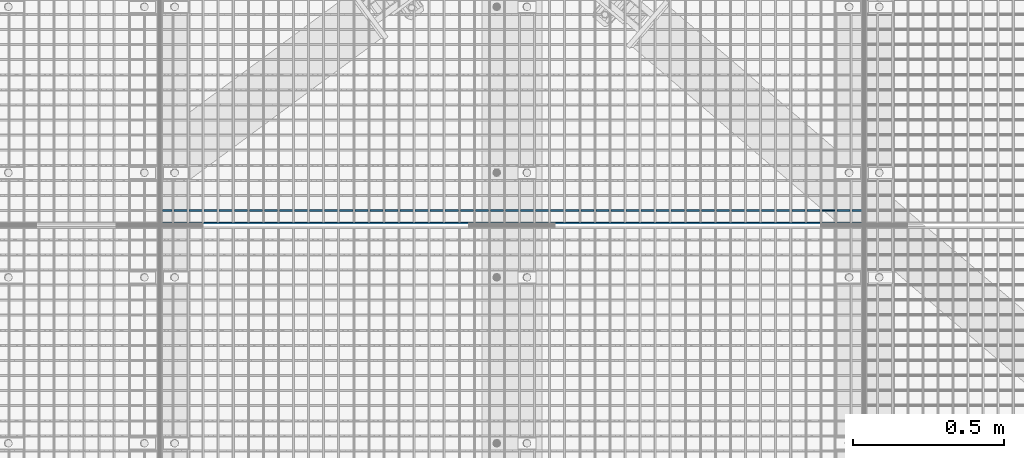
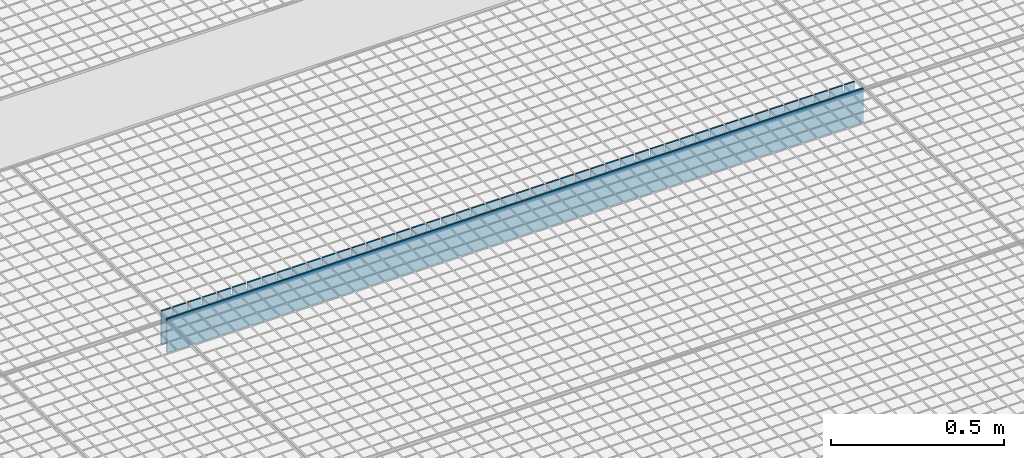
# One storey, part 213 of 1530: 2 beams.
"""IFC2X3 building model written with IfcOpenShell, lengths in millimetres."""

from ifc_helpers import new_model, si_unit, frame, origin_with_axes, place, context, subcontext, project, spatial, faceted_brep, material, type_object, element, save


model = new_model("IFC2X3")

# Units and contexts
model_context = context("Model", 3, precision=1e-05, world=origin_with_axes())
body_context = subcontext(model_context, "Body", "Model", "MODEL_VIEW")
ifc_project = project(units=[si_unit("LENGTHUNIT", "METRE", prefix="MILLI"), si_unit("AREAUNIT", "SQUARE_METRE"), si_unit("VOLUMEUNIT", "CUBIC_METRE"), si_unit("MASSUNIT", "GRAM", prefix="KILO"), si_unit("TIMEUNIT", "SECOND"), si_unit("PLANEANGLEUNIT", "RADIAN"), si_unit("SOLIDANGLEUNIT", "STERADIAN"), si_unit("THERMODYNAMICTEMPERATUREUNIT", "DEGREE_CELSIUS"), si_unit("LUMINOUSINTENSITYUNIT", "LUMEN")], contexts=[model_context])

# Site, building, storey
site_placement = place(None, origin_with_axes())
site = spatial("IfcSite", under=ifc_project, at=site_placement, Name="Brattvåg", CompositionType="ELEMENT")
building_placement = place(site_placement, origin_with_axes())
building = spatial("IfcBuilding", under=site, at=building_placement, Name="Undefined", CompositionType="ELEMENT")
storey_placement = place(building_placement, origin_with_axes())
storey = spatial("IfcBuildingStorey", under=building, at=storey_placement, Name="Undefined", CompositionType="ELEMENT", Elevation=0.0)

# Beams
ifc_material = material(Name="STEEL/S355J2")
beam_type = type_object("IfcBeamType", Name="120*5", PredefinedType="NOTDEFINED")
beam_1_placement = place(storey_placement, frame((5234.01317977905, 1996.99487304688, -59.9998626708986), z_axis=(0.0, 0.0, 1.0), x_axis=(-1.0, 1.99999855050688e-09, 0.0)))
element("IfcBeam", 1, at=beam_1_placement, inside=storey, type_object=beam_type, material=ifc_material, Name="GRATING", context=body_context, shape_type="Brep", body=[
    faceted_brep([(83.5790367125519, -2.50000000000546, 60.0000722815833), (83.5790367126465, -2.50000000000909, 35.0001373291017), (83.5790367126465, 2.50022888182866, 35.0001373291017), (83.5790367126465, 2.5, 60.0), (88.5790367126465, -2.50000000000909, 35.0001373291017), (88.5790367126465, 2.50022888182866, 35.0001373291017), (88.5790367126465, -2.50000000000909, 60.0001373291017), (88.5790367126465, 2.5, 60.0), (38.6284370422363, -2.50000000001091, 60.0001373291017), (38.6284370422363, 2.5, 60.0), (38.6284370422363, 2.49999999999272, 35.0001373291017), (38.6284370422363, -2.50000000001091, 35.0001373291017), (33.6284370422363, 2.49999999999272, 35.0001373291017), (33.6284370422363, -2.50000000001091, 35.0001373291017), (33.6284370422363, -2.5, 60.0), (33.6284370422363, 2.5, 60.0), (0.0, 2.5, 60.0), (0.0, -2.5, 60.0), (0.0, -2.5, -60.0), (0.0, 2.5, -60.0), (2319.99865722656, 2.5, -60.0), (2319.99865722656, -2.5, -60.0), (2319.99865722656, -2.5, 60.0), (2319.99865722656, 2.5, 60.0), (2286.37871932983, 2.5, 60.0), (2286.37871932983, -2.50000000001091, 60.0001373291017), (2286.37871932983, 2.49999999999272, 35.0001373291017), (2286.37871932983, -2.50000000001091, 35.0001373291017), (2281.37871932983, 2.49999999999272, 35.0001373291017), (2281.37871932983, -2.50000000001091, 35.0001373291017), (2281.37871932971, -2.50000000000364, 60.0000634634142), (2281.37871932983, 2.5, 60.0), (2236.42859649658, 2.5, 60.0), (2236.42859649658, -2.50000000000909, 60.0001373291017), (2236.42859649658, 2.50022888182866, 35.0001373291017), (2236.42859649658, -2.50000000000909, 35.0001373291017), (2231.42859649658, 2.50022888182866, 35.0001373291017), (2231.42859649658, -2.50000000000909, 35.0001373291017), (2231.42859649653, -2.50000000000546, 60.0000910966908), (2231.42859649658, 2.5, 60.0), (2186.47847366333, 2.5, 60.0), (2186.47847366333, -2.50000000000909, 60.0001373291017), (2186.47847366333, 2.50022888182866, 35.0001373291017), (2186.47847366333, -2.50000000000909, 35.0001373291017), (2181.47847366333, 2.50022888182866, 35.0001373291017), (2181.47847366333, -2.50000000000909, 35.0001373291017), (2181.47847366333, -2.5, 60.0), (2181.47847366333, 2.5, 60.0), (2136.52882766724, 2.5, 60.0), (2136.52882766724, -2.50000000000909, 60.0001373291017), (2136.52882766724, 2.50022888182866, 35.0001373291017), (2136.52882766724, -2.50000000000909, 35.0001373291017), (2131.52882766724, 2.50022888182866, 35.0001373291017), (2131.52882766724, -2.50000000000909, 35.0001373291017), (2131.52882766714, -2.50000000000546, 60.0000722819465), (2131.52882766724, 2.5, 60.0), (2086.57870483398, 2.5, 60.0), (2086.57870483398, -2.50000000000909, 60.0001373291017), (2086.57870483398, 2.50022888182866, 35.0001373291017), (2086.57870483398, -2.50000000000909, 35.0001373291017), (2081.57870483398, 2.50022888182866, 35.0001373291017), (2081.57870483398, -2.50000000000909, 35.0001373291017), (2081.57870483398, -2.5, 60.0), (2081.57870483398, 2.5, 60.0), (2036.62858200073, 2.5, 60.0), (2036.62858200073, -2.50000000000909, 60.0001373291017), (2036.62858200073, 2.50022888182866, 35.0001373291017), (2036.62858200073, -2.50000000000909, 35.0001373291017), (2031.62858200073, 2.50022888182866, 35.0001373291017), (2031.62858200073, -2.50000000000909, 35.0001373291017), (2031.62858200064, -2.50000000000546, 60.0000722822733), (2031.62858200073, 2.5, 60.0), (1986.67845916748, 2.5, 60.0), (1986.67845916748, -2.50000000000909, 60.0001373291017), (1986.67845916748, 2.50022888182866, 35.0001373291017), (1986.67845916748, -2.50000000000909, 35.0001373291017), (1981.67845916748, 2.50022888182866, 35.0001373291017), (1981.67845916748, -2.50000000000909, 35.0001373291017), (1981.67845916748, -2.5, 60.0), (1981.67845916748, 2.5, 60.0), (1936.72881317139, 2.5, 60.0), (1936.72881317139, -2.50000000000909, 60.0001373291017), (1936.72881317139, 2.50022888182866, 35.0001373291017), (1936.72881317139, -2.50000000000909, 35.0001373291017), (1931.72881317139, 2.50022888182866, 35.0001373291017), (1931.72881317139, -2.50000000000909, 35.0001373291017), (1931.72881317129, -2.50000000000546, 60.0000722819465), (1931.72881317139, 2.5, 60.0), (1886.77869033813, 2.5, 60.0), (1886.77869033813, -2.50000000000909, 60.0001373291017), (1886.77869033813, 2.50022888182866, 35.0001373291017), (1886.77869033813, -2.50000000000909, 35.0001373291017), (1881.77869033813, 2.50022888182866, 35.0001373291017), (1881.77869033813, -2.50000000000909, 35.0001373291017), (1881.77869033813, -2.5, 60.0), (1881.77869033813, 2.5, 60.0), (1836.82856750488, 2.5, 60.0), (1836.82856750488, -2.50000000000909, 60.0001373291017), (1836.82856750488, 2.50022888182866, 35.0001373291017), (1836.82856750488, -2.50000000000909, 35.0001373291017), (1831.82856750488, 2.50022888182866, 35.0001373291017), (1831.82856750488, -2.50000000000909, 35.0001373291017), (1831.82856750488, -2.5, 60.0), (1831.82856750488, 2.5, 60.0), (1786.87892150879, 2.5, 60.0), (1786.87892150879, -2.50000000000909, 60.0001373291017), (1786.87892150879, 2.50022888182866, 35.0001373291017), (1786.87892150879, -2.50000000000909, 35.0001373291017), (1781.87892150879, 2.50022888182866, 35.0001373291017), (1781.87892150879, -2.50000000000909, 35.0001373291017), (1781.87892150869, -2.50000000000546, 60.0000722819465), (1781.87892150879, 2.5, 60.0), (1736.92879867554, 2.5, 60.0), (1736.92879867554, -2.50000000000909, 60.0001373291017), (1736.92879867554, 2.50022888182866, 35.0001373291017), (1736.92879867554, -2.50000000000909, 35.0001373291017), (1731.92879867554, 2.50022888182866, 35.0001373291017), (1731.92879867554, -2.50000000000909, 35.0001373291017), (1731.92879867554, -2.5, 60.0), (1731.92879867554, 2.5, 60.0), (1686.97867584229, 2.5, 60.0), (1686.97867584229, -2.50000000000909, 60.0001373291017), (1686.97867584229, 2.50022888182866, 35.0001373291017), (1686.97867584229, -2.50000000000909, 35.0001373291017), (1681.97867584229, 2.50022888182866, 35.0001373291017), (1681.97867584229, -2.50000000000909, 35.0001373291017), (1681.97867584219, -2.50000000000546, 60.0000722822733), (1681.97867584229, 2.5, 60.0), (1637.02855300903, 2.5, 60.0), (1637.02855300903, -2.50000000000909, 60.0001373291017), (1637.02855300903, 2.50022888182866, 35.0001373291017), (1637.02855300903, -2.50000000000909, 35.0001373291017), (1632.02855300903, 2.50022888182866, 35.0001373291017), (1632.02855300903, -2.50000000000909, 35.0001373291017), (1632.02855300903, -2.5, 60.0), (1632.02855300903, 2.5, 60.0), (1587.07890701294, 2.5, 60.0), (1587.07890701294, -2.50000000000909, 60.0001373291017), (1587.07890701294, 2.50022888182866, 35.0001373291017), (1587.07890701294, -2.50000000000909, 35.0001373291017), (1582.07890701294, 2.50022888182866, 35.0001373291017), (1582.07890701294, -2.50000000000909, 35.0001373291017), (1582.07890701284, -2.50000000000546, 60.0000722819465), (1582.07890701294, 2.5, 60.0), (1537.12878417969, 2.5, 60.0), (1537.12878417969, -2.50000000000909, 60.0001373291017), (1537.12878417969, 2.50022888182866, 35.0001373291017), (1537.12878417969, -2.50000000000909, 35.0001373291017), (1532.12878417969, 2.50022888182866, 35.0001373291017), (1532.12878417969, -2.50000000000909, 35.0001373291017), (1532.12878417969, -2.5, 60.0), (1532.12878417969, 2.5, 60.0), (1487.17866134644, 2.5, 60.0), (1487.17866134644, -2.50000000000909, 60.0001373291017), (1487.17866134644, 2.50022888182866, 35.0001373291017), (1487.17866134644, -2.50000000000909, 35.0001373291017), (1482.17866134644, 2.50022888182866, 35.0001373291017), (1482.17866134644, -2.50000000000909, 35.0001373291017), (1482.17866134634, -2.50000000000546, 60.0000722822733), (1482.17866134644, 2.5, 60.0), (1437.22853851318, 2.5, 60.0), (1437.22853851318, -2.50000000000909, 60.0001373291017), (1437.22853851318, 2.50022888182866, 35.0001373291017), (1437.22853851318, -2.50000000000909, 35.0001373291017), (1432.22853851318, 2.50022888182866, 35.0001373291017), (1432.22853851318, -2.50000000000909, 35.0001373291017), (1432.22853851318, -2.5, 60.0), (1432.22853851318, 2.5, 60.0), (1387.27889251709, 2.5, 60.0), (1387.27889251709, -2.50000000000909, 60.0001373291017), (1387.27889251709, 2.50022888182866, 35.0001373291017), (1387.27889251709, -2.50000000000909, 35.0001373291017), (1382.27889251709, 2.50022888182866, 35.0001373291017), (1382.27889251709, -2.50000000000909, 35.0001373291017), (1382.278892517, -2.50000000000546, 60.0000722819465), (1382.27889251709, 2.5, 60.0), (1337.32876968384, 2.5, 60.0), (1337.32876968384, -2.50000000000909, 60.0001373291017), (1337.32876968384, 2.50022888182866, 35.0001373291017), (1337.32876968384, -2.50000000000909, 35.0001373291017), (1332.32876968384, 2.50022888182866, 35.0001373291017), (1332.32876968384, -2.50000000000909, 35.0001373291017), (1332.32876968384, -2.5, 60.0), (1332.32876968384, 2.5, 60.0), (1287.37864685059, 2.5, 60.0), (1287.37864685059, -2.50000000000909, 60.0001373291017), (1287.37864685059, 2.50022888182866, 35.0001373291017), (1287.37864685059, -2.50000000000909, 35.0001373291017), (1282.37864685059, 2.50022888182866, 35.0001373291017), (1282.37864685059, -2.50000000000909, 35.0001373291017), (1282.37864685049, -2.50000000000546, 60.0000722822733), (1282.37864685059, 2.5, 60.0), (1237.42852401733, 2.5, 60.0), (1237.42852401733, -2.50000000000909, 60.0001373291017), (1237.42852401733, 2.50022888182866, 35.0001373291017), (1237.42852401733, -2.50000000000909, 35.0001373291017), (1232.42852401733, 2.50022888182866, 35.0001373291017), (1232.42852401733, -2.50000000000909, 35.0001373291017), (1232.42852401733, -2.5, 60.0), (1232.42852401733, 2.5, 60.0), (1187.47887802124, 2.5, 60.0), (1187.47887802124, -2.50000000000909, 60.0001373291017), (1187.47887802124, 2.50022888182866, 35.0001373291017), (1187.47887802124, -2.50000000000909, 35.0001373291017), (1182.47887802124, 2.50022888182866, 35.0001373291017), (1182.47887802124, -2.50000000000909, 35.0001373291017), (1182.47887802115, -2.50000000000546, 60.0000722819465), (1182.47887802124, 2.5, 60.0), (1137.52875518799, 2.5, 60.0), (1137.52875518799, -2.50000000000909, 60.0001373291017), (1137.52875518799, 2.50022888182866, 35.0001373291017), (1137.52875518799, -2.50000000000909, 35.0001373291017), (1132.52875518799, 2.50022888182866, 35.0001373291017), (1132.52875518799, -2.50000000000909, 35.0001373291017), (1132.52875518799, -2.5, 60.0), (1132.52875518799, 2.5, 60.0), (1087.57863235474, 2.5, 60.0), (1087.57863235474, -2.50000000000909, 60.0001373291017), (1087.57863235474, 2.50022888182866, 35.0001373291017), (1087.57863235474, -2.50000000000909, 35.0001373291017), (1082.57863235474, 2.50022888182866, 35.0001373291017), (1082.57863235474, -2.50000000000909, 35.0001373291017), (1082.57863235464, -2.50000000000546, 60.0000722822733), (1082.57863235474, 2.5, 60.0), (1037.62850952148, 2.5, 60.0), (1037.62850952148, -2.50000000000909, 60.0001373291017), (1037.62850952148, 2.50022888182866, 35.0001373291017), (1037.62850952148, -2.50000000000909, 35.0001373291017), (1032.62850952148, 2.50022888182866, 35.0001373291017), (1032.62850952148, -2.50000000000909, 35.0001373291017), (1032.62850952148, -2.5, 60.0), (1032.62850952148, 2.5, 60.0), (987.678863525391, 2.5, 60.0), (987.678863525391, -2.50000000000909, 60.0001373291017), (987.678863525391, 2.50022888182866, 35.0001373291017), (987.678863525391, -2.50000000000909, 35.0001373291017), (982.678863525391, 2.50022888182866, 35.0001373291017), (982.678863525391, -2.50000000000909, 35.0001373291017), (982.678863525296, -2.50000000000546, 60.0000722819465), (982.678863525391, 2.5, 60.0), (937.728740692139, 2.5, 60.0), (937.728740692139, -2.50000000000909, 60.0001373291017), (937.728740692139, 2.50022888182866, 35.0001373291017), (937.728740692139, -2.50000000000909, 35.0001373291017), (932.728740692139, 2.50022888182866, 35.0001373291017), (932.728740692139, -2.50000000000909, 35.0001373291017), (932.728740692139, -2.5, 60.0), (932.728740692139, 2.5, 60.0), (887.778617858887, 2.5, 60.0), (887.778617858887, -2.50000000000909, 60.0001373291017), (887.778617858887, 2.50022888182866, 35.0001373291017), (887.778617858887, -2.50000000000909, 35.0001373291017), (882.778617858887, 2.50022888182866, 35.0001373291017), (882.778617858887, -2.50000000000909, 35.0001373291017), (882.778617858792, -2.50000000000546, 60.0000722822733), (882.778617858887, 2.5, 60.0), (837.828495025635, 2.5, 60.0), (837.828495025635, -2.50000000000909, 60.0001373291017), (837.828495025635, 2.50022888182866, 35.0001373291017), (837.828495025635, -2.50000000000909, 35.0001373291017), (832.828495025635, 2.50022888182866, 35.0001373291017), (832.828495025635, -2.50000000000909, 35.0001373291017), (832.828495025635, -2.5, 60.0), (832.828495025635, 2.5, 60.0), (787.878849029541, 2.5, 60.0), (787.878849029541, -2.50000000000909, 60.0001373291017), (787.878849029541, 2.50022888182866, 35.0001373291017), (787.878849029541, -2.50000000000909, 35.0001373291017), (782.878849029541, 2.50022888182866, 35.0001373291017), (782.878849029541, -2.50000000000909, 35.0001373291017), (782.878849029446, -2.50000000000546, 60.0000722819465), (782.878849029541, 2.5, 60.0), (737.928726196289, 2.5, 60.0), (737.928726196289, -2.50000000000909, 60.0001373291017), (737.928726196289, 2.50022888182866, 35.0001373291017), (737.928726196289, -2.50000000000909, 35.0001373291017), (732.928726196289, 2.50022888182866, 35.0001373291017), (732.928726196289, -2.50000000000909, 35.0001373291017), (732.928726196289, -2.5, 60.0), (732.928726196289, 2.5, 60.0), (687.978603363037, 2.5, 60.0), (687.978603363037, -2.50000000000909, 60.0001373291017), (687.978603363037, 2.50022888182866, 35.0001373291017), (687.978603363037, -2.50000000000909, 35.0001373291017), (682.978603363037, 2.50022888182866, 35.0001373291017), (682.978603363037, -2.50000000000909, 35.0001373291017), (682.978603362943, -2.50000000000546, 60.0000722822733), (682.978603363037, 2.5, 60.0), (638.028480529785, 2.5, 60.0), (638.028480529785, -2.50000000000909, 60.0001373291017), (638.028480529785, 2.50022888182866, 35.0001373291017), (638.028480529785, -2.50000000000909, 35.0001373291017), (633.028480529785, 2.50022888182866, 35.0001373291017), (633.028480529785, -2.50000000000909, 35.0001373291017), (633.028480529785, -2.5, 60.0), (633.028480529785, 2.5, 60.0), (588.078834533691, 2.5, 60.0), (588.078834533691, -2.50000000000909, 60.0001373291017), (588.078834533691, 2.50022888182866, 35.0001373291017), (588.078834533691, -2.50000000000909, 35.0001373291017), (583.078834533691, 2.50022888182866, 35.0001373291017), (583.078834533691, -2.50000000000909, 35.0001373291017), (583.078834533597, -2.50000000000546, 60.0000722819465), (583.078834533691, 2.5, 60.0), (538.128711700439, 2.5, 60.0), (538.128711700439, -2.50000000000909, 60.0001373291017), (538.128711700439, 2.50022888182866, 35.0001373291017), (538.128711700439, -2.50000000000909, 35.0001373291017), (533.128711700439, 2.50022888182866, 35.0001373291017), (533.128711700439, -2.50000000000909, 35.0001373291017), (533.128711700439, -2.5, 60.0), (533.128711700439, 2.5, 60.0), (488.178588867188, 2.5, 60.0), (488.178588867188, -2.50000000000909, 60.0001373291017), (488.178588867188, 2.50022888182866, 35.0001373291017), (488.178588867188, -2.50000000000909, 35.0001373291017), (483.178588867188, 2.50022888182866, 35.0001373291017), (483.178588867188, -2.50000000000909, 35.0001373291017), (483.178588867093, -2.50000000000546, 60.0000722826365), (483.178588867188, 2.5, 60.0), (438.228942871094, 2.5, 60.0), (438.228942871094, -2.50000000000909, 60.0001373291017), (438.228942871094, 2.50022888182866, 35.0001373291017), (438.228942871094, -2.50000000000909, 35.0001373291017), (433.228942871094, 2.50022888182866, 35.0001373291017), (433.228942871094, -2.50000000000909, 35.0001373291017), (433.228942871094, -2.5, 60.0), (433.228942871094, 2.5, 60.0), (388.278820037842, 2.5, 60.0), (388.278820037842, -2.50000000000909, 60.0001373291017), (388.278820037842, 2.50022888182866, 35.0001373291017), (388.278820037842, -2.50000000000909, 35.0001373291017), (383.278820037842, 2.50022888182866, 35.0001373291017), (383.278820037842, -2.50000000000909, 35.0001373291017), (383.278820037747, -2.50000000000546, 60.0000722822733), (383.278820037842, 2.5, 60.0), (338.32869720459, 2.5, 60.0), (338.32869720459, -2.50000000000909, 60.0001373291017), (338.32869720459, 2.50022888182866, 35.0001373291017), (338.32869720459, -2.50000000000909, 35.0001373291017), (333.32869720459, 2.50022888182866, 35.0001373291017), (333.32869720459, -2.50000000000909, 35.0001373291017), (333.32869720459, -2.5, 60.0), (333.32869720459, 2.5, 60.0), (288.378574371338, 2.5, 60.0), (288.378574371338, -2.50000000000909, 60.0001373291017), (288.378574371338, 2.50022888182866, 35.0001373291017), (288.378574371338, -2.50000000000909, 35.0001373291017), (283.378574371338, 2.50022888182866, 35.0001373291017), (283.378574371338, -2.50000000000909, 35.0001373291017), (283.378574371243, -2.50000000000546, 60.0000722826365), (283.378574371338, 2.5, 60.0), (238.428928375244, 2.5, 60.0), (238.428928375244, -2.50000000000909, 60.0001373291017), (238.428928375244, 2.50022888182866, 35.0001373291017), (238.428928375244, -2.50000000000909, 35.0001373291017), (233.428928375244, 2.50022888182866, 35.0001373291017), (233.428928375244, -2.50000000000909, 35.0001373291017), (233.428928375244, -2.5, 60.0), (233.428928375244, 2.5, 60.0), (188.478328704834, 2.5, 60.0), (188.478328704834, -2.50000000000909, 60.0001373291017), (188.478328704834, 2.50022888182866, 35.0001373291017), (188.478328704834, -2.50000000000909, 35.0001373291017), (183.478328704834, 2.50022888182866, 35.0001373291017), (183.478328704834, -2.50000000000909, 35.0001373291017), (183.478328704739, -2.50000000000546, 60.0000722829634), (183.478328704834, 2.5, 60.0), (138.52868270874, 2.5, 60.0), (138.52868270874, -2.50000000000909, 60.0001373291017), (138.52868270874, 2.50022888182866, 35.0001373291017), (138.52868270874, -2.50000000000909, 35.0001373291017), (133.52868270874, 2.50022888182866, 35.0001373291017), (133.52868270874, -2.50000000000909, 35.0001373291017), (133.52868270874, -2.5, 60.0), (133.52868270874, 2.5, 60.0)], [[[0, 1, 2, 3]], [[4, 5, 2, 1]], [[6, 7, 5, 4]], [[8, 9, 10, 11]], [[11, 10, 12, 13]], [[14, 13, 12, 15]], [[16, 17, 14, 15]], [[18, 17, 16, 19]], [[18, 19, 20, 21]], [[22, 21, 20, 23]], [[22, 23, 24, 25]], [[25, 24, 26, 27]], [[27, 26, 28, 29]], [[30, 29, 28, 31]], [[32, 33, 30, 31]], [[33, 32, 34, 35]], [[35, 34, 36, 37]], [[38, 37, 36, 39]], [[40, 41, 38, 39]], [[41, 40, 42, 43]], [[43, 42, 44, 45]], [[46, 45, 44, 47]], [[46, 47, 48, 49]], [[49, 48, 50, 51]], [[51, 50, 52, 53]], [[54, 53, 52, 55]], [[56, 57, 54, 55]], [[57, 56, 58, 59]], [[59, 58, 60, 61]], [[62, 61, 60, 63]], [[62, 63, 64, 65]], [[65, 64, 66, 67]], [[67, 66, 68, 69]], [[70, 69, 68, 71]], [[72, 73, 70, 71]], [[73, 72, 74, 75]], [[75, 74, 76, 77]], [[78, 77, 76, 79]], [[78, 79, 80, 81]], [[81, 80, 82, 83]], [[83, 82, 84, 85]], [[86, 85, 84, 87]], [[88, 89, 86, 87]], [[89, 88, 90, 91]], [[91, 90, 92, 93]], [[94, 93, 92, 95]], [[94, 95, 96, 97]], [[97, 96, 98, 99]], [[99, 98, 100, 101]], [[102, 101, 100, 103]], [[102, 103, 104, 105]], [[105, 104, 106, 107]], [[107, 106, 108, 109]], [[110, 109, 108, 111]], [[112, 113, 110, 111]], [[113, 112, 114, 115]], [[115, 114, 116, 117]], [[118, 117, 116, 119]], [[118, 119, 120, 121]], [[121, 120, 122, 123]], [[123, 122, 124, 125]], [[126, 125, 124, 127]], [[128, 129, 126, 127]], [[129, 128, 130, 131]], [[131, 130, 132, 133]], [[134, 133, 132, 135]], [[134, 135, 136, 137]], [[137, 136, 138, 139]], [[139, 138, 140, 141]], [[142, 141, 140, 143]], [[144, 145, 142, 143]], [[145, 144, 146, 147]], [[147, 146, 148, 149]], [[150, 149, 148, 151]], [[150, 151, 152, 153]], [[153, 152, 154, 155]], [[155, 154, 156, 157]], [[158, 157, 156, 159]], [[160, 161, 158, 159]], [[161, 160, 162, 163]], [[163, 162, 164, 165]], [[166, 165, 164, 167]], [[166, 167, 168, 169]], [[169, 168, 170, 171]], [[171, 170, 172, 173]], [[174, 173, 172, 175]], [[176, 177, 174, 175]], [[177, 176, 178, 179]], [[179, 178, 180, 181]], [[182, 181, 180, 183]], [[182, 183, 184, 185]], [[185, 184, 186, 187]], [[187, 186, 188, 189]], [[190, 189, 188, 191]], [[192, 193, 190, 191]], [[193, 192, 194, 195]], [[195, 194, 196, 197]], [[198, 197, 196, 199]], [[198, 199, 200, 201]], [[201, 200, 202, 203]], [[203, 202, 204, 205]], [[206, 205, 204, 207]], [[208, 209, 206, 207]], [[209, 208, 210, 211]], [[211, 210, 212, 213]], [[214, 213, 212, 215]], [[214, 215, 216, 217]], [[217, 216, 218, 219]], [[219, 218, 220, 221]], [[222, 221, 220, 223]], [[224, 225, 222, 223]], [[225, 224, 226, 227]], [[227, 226, 228, 229]], [[230, 229, 228, 231]], [[230, 231, 232, 233]], [[233, 232, 234, 235]], [[235, 234, 236, 237]], [[238, 237, 236, 239]], [[240, 241, 238, 239]], [[241, 240, 242, 243]], [[243, 242, 244, 245]], [[246, 245, 244, 247]], [[246, 247, 248, 249]], [[249, 248, 250, 251]], [[251, 250, 252, 253]], [[254, 253, 252, 255]], [[256, 257, 254, 255]], [[257, 256, 258, 259]], [[259, 258, 260, 261]], [[262, 261, 260, 263]], [[262, 263, 264, 265]], [[265, 264, 266, 267]], [[267, 266, 268, 269]], [[270, 269, 268, 271]], [[272, 273, 270, 271]], [[273, 272, 274, 275]], [[275, 274, 276, 277]], [[278, 277, 276, 279]], [[278, 279, 280, 281]], [[281, 280, 282, 283]], [[283, 282, 284, 285]], [[286, 285, 284, 287]], [[288, 289, 286, 287]], [[289, 288, 290, 291]], [[291, 290, 292, 293]], [[294, 293, 292, 295]], [[294, 295, 296, 297]], [[297, 296, 298, 299]], [[299, 298, 300, 301]], [[302, 301, 300, 303]], [[304, 305, 302, 303]], [[305, 304, 306, 307]], [[307, 306, 308, 309]], [[310, 309, 308, 311]], [[310, 311, 312, 313]], [[313, 312, 314, 315]], [[315, 314, 316, 317]], [[318, 317, 316, 319]], [[320, 321, 318, 319]], [[321, 320, 322, 323]], [[323, 322, 324, 325]], [[326, 325, 324, 327]], [[326, 327, 328, 329]], [[329, 328, 330, 331]], [[331, 330, 332, 333]], [[334, 333, 332, 335]], [[336, 337, 334, 335]], [[337, 336, 338, 339]], [[339, 338, 340, 341]], [[342, 341, 340, 343]], [[342, 343, 344, 345]], [[345, 344, 346, 347]], [[347, 346, 348, 349]], [[350, 349, 348, 351]], [[352, 353, 350, 351]], [[353, 352, 354, 355]], [[355, 354, 356, 357]], [[358, 357, 356, 359]], [[358, 359, 360, 361]], [[361, 360, 362, 363]], [[363, 362, 364, 365]], [[366, 365, 364, 367]], [[368, 369, 366, 367]], [[369, 368, 370, 371]], [[371, 370, 372, 373]], [[374, 373, 372, 375]], [[1, 0, 8, 11, 13, 14, 17, 18, 21, 22, 25, 27, 29, 30, 33, 35, 37, 38, 41, 43, 45, 46, 49, 51, 53, 54, 57, 59, 61, 62, 65, 67, 69, 70, 73, 75, 77, 78, 81, 83, 85, 86, 89, 91, 93, 94, 97, 99, 101, 102, 105, 107, 109, 110, 113, 115, 117, 118, 121, 123, 125, 126, 129, 131, 133, 134, 137, 139, 141, 142, 145, 147, 149, 150, 153, 155, 157, 158, 161, 163, 165, 166, 169, 171, 173, 174, 177, 179, 181, 182, 185, 187, 189, 190, 193, 195, 197, 198, 201, 203, 205, 206, 209, 211, 213, 214, 217, 219, 221, 222, 225, 227, 229, 230, 233, 235, 237, 238, 241, 243, 245, 246, 249, 251, 253, 254, 257, 259, 261, 262, 265, 267, 269, 270, 273, 275, 277, 278, 281, 283, 285, 286, 289, 291, 293, 294, 297, 299, 301, 302, 305, 307, 309, 310, 313, 315, 317, 318, 321, 323, 325, 326, 329, 331, 333, 334, 337, 339, 341, 342, 345, 347, 349, 350, 353, 355, 357, 358, 361, 363, 365, 366, 369, 371, 373, 374, 6, 4]], [[9, 8, 0, 3]], [[375, 372, 370, 368, 367, 364, 362, 360, 359, 356, 354, 352, 351, 348, 346, 344, 343, 340, 338, 336, 335, 332, 330, 328, 327, 324, 322, 320, 319, 316, 314, 312, 311, 308, 306, 304, 303, 300, 298, 296, 295, 292, 290, 288, 287, 284, 282, 280, 279, 276, 274, 272, 271, 268, 266, 264, 263, 260, 258, 256, 255, 252, 250, 248, 247, 244, 242, 240, 239, 236, 234, 232, 231, 228, 226, 224, 223, 220, 218, 216, 215, 212, 210, 208, 207, 204, 202, 200, 199, 196, 194, 192, 191, 188, 186, 184, 183, 180, 178, 176, 175, 172, 170, 168, 167, 164, 162, 160, 159, 156, 154, 152, 151, 148, 146, 144, 143, 140, 138, 136, 135, 132, 130, 128, 127, 124, 122, 120, 119, 116, 114, 112, 111, 108, 106, 104, 103, 100, 98, 96, 95, 92, 90, 88, 87, 84, 82, 80, 79, 76, 74, 72, 71, 68, 66, 64, 63, 60, 58, 56, 55, 52, 50, 48, 47, 44, 42, 40, 39, 36, 34, 32, 31, 28, 26, 24, 23, 20, 19, 16, 15, 12, 10, 9, 3, 2, 5, 7]], [[374, 375, 7, 6]]]),
])
beam_2_placement = place(storey_placement, frame((2909.01067138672, 1955.49868774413, -59.9998626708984), z_axis=(0.0, 0.0, 1.0), x_axis=(1.0, 0.0, 0.0)))
element("IfcBeam", 2, at=beam_2_placement, inside=storey, type_object=beam_type, material=ifc_material, Name="GRATING", context=body_context, shape_type="Brep", body=[
    faceted_brep([(0.0, 2.5, -60.0), (0.0, 2.5, 60.0), (2329.99832153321, 2.5, 60.0), (2329.99832153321, 2.5, -60.0), (0.0, -2.5, 60.0), (2329.99832153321, -2.5, 60.0), (0.0, -2.5, -60.0), (2329.99832153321, -2.5, -60.0)], [[[0, 1, 2, 3]], [[1, 4, 5, 2]], [[4, 6, 7, 5]], [[6, 0, 3, 7]], [[5, 7, 3, 2]], [[6, 4, 1, 0]]]),
])

save(model, "model.ifc")
